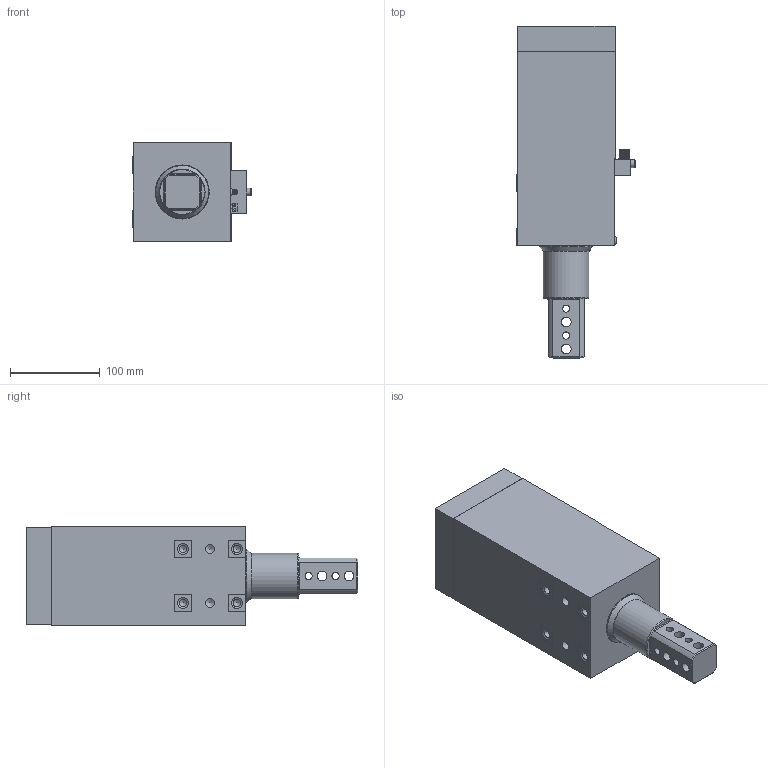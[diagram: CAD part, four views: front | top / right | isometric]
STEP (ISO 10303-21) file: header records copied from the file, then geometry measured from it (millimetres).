
FILE_DESCRIPTION(/* description */ (''),/* implementation_level */ '2;1');
FILE_NAME(/* name */ 'M:\cad\PRODUCT\LSA\LSA - 105\STEP\LSA-105\50mm Stroke\LSA-105 50mm Stroke - Extend.stp',/* time_stamp */ '2018-04-20T09:43:59-04:00',/* author */ ('Tyler'),/* organization */ (''),/* preprocessor_version */ 'ST-DEVELOPER v17',/* originating_system */ 'Autodesk Inventor 2018',/* authorisation */ '');
FILE_SCHEMA (('AUTOMOTIVE_DESIGN { 1 0 10303 214 3 1 1 }'));
Length unit declared in the file: inch
Products named in the file (2): LSA-105 - 25_50 Stroke - Stripped for STEP; LSA-105 - 25_50 Stroke - Stripped for STEP_50 Extend
Assembly tree (1 placements, depth 2):
  LSA-105 - 25_50 Stroke - Stripped for STEP
    LSA-105 - 25_50 Stroke - Stripped for STEP_50 Extend
Bounding box: 131.81 x 370 x 110.01 mm (x, y, z)
Volume: 2356311.7 mm3; surface area: 258377.1 mm2
Topology: 1 solids, 1 shells, 486 faces, 1385 edges, 930 vertices
Faces by surface type: cylinder 214, plane 189, cone 75, torus 5, bspline 2, sphere 1
Full cylindrical faces by diameter (mm): 1 x8, 1.397 x1, 2 x2, 3.175 x2, 3.264 x6, 3.961 x29, 4.14 x5, 4.928 x4, 5 x27, 5.3 x4, 6.35 x1, 6.502 x4, 8.019 x8, 8.3 x1, 8.382 x4, 8.5 x1, 9.169 x1, 9.525 x1, 10.02 x2, 10.49 x4, 10.5 x1, 10.998 x8, 12 x1, 13.894 x1, 14.287 x1, 14.808 x1, 15.083 x1, 17.983 x1, 18.11 x1, 22.174 x2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
Entity records: 22663 total; most frequent: CARTESIAN_POINT 9208, ORIENTED_EDGE 2732, DIRECTION 2707, EDGE_CURVE 1366, AXIS2_PLACEMENT_3D 1044, VERTEX_POINT 930, LINE 619, VECTOR 619
